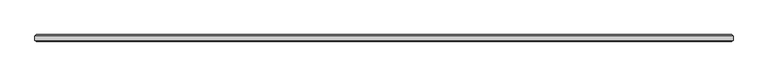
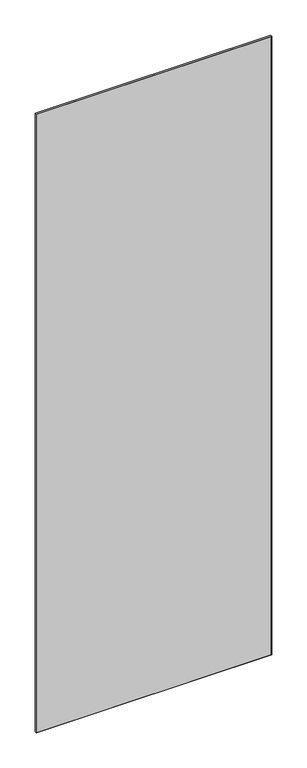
"""IFC4 building model written with IfcOpenShell, lengths in millimetres: plate geometry, 11-AMG-1-Панель одинарный витраж 10-12 : Центр Толщина 10mm."""

from ifc_helpers import new_model, si_unit, origin, place, context, project, spatial, faceted_brep, source, transform, mapped, element, save


def plate_1e9a3340(model_context):
    return source(origin(), model_context, "Body", "Brep", [
        faceted_brep([(499.1456302, 3.4961653, 2777.6), (-499.1456302, 3.4961653, 2777.6), (-499.1456302, -3.4961653, 2777.6), (499.1456302, -3.4961653, 2777.6), (499.1456302, -3.5039422, 5.0), (-499.1456302, -3.5039422, 5.0), (-499.1456302, 3.4961653, 5.0), (499.1456302, 3.4961653, 5.0), (-497.6417955, -5.0, 2776.0961653), (-497.6417955, -5.0, 6.4960578), (497.6417955, -5.0, 6.4960578), (497.6417955, -5.0, 2776.0961653), (497.6417955, 5.0, 2776.0961653), (497.6417955, 5.0, 6.5038347), (-497.6417955, 5.0, 6.5038347), (-497.6417955, 5.0, 2776.0961653)], [[[0, 1, 2, 3]], [[4, 5, 6, 7]], [[8, 9, 10, 11]], [[1, 6, 5, 2]], [[12, 13, 14, 15]], [[3, 4, 7, 0]], [[3, 11, 10, 4]], [[7, 13, 12, 0]], [[5, 9, 8, 2]], [[1, 15, 14, 6]], [[0, 12, 15, 1]], [[2, 8, 11, 3]], [[6, 14, 13, 7]], [[4, 10, 9, 5]]]),
    ])


if __name__ == "__main__":
    model = new_model("IFC4")
    model_context = context("Model", 3, world=origin())
    ifc_project = project(units=[si_unit("LENGTHUNIT", "METRE", prefix="MILLI")], contexts=[model_context])
    site = spatial("IfcSite", under=ifc_project)
    building = spatial("IfcBuilding", under=site)
    placement = place(None, origin())
    plate_shape = plate_1e9a3340(model_context)
    element("IfcPlate", 1, ObjectType="11-AMG-1-Панель одинарный витраж 10-12 : Центр Толщина 10mm", at=placement, inside=building, context=model_context, shape_type="MappedRepresentation", body=[
        mapped(plate_shape, transform((0.0, 0.0, 0.0), x_axis=(1.0, 0.0, 0.0), y_axis=(0.0, 1.0, 0.0), z_axis=(0.0, 0.0, 1.0))),
    ])
    save(model, "model.ifc")
